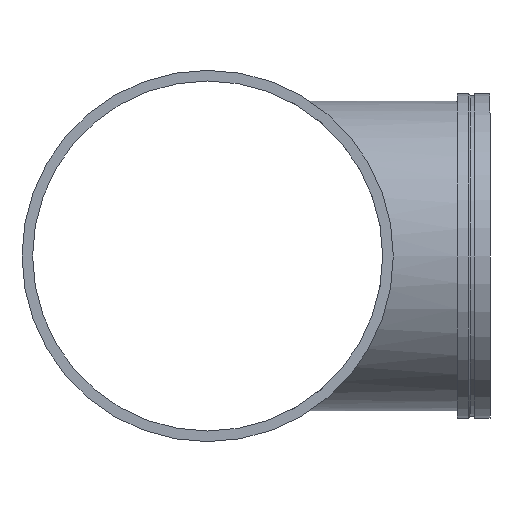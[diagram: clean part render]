
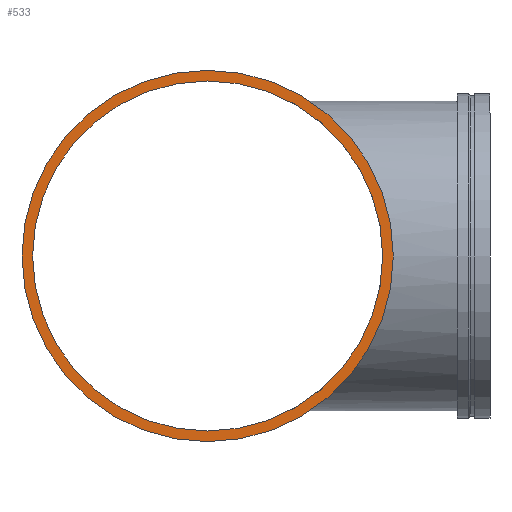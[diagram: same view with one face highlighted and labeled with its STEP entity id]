
A CAD part, left-side view. The second image highlights one B-rep face of the part: STEP entity #533.
In plain terms, the highlighted planar face has unit normal (-1, 0, 0).
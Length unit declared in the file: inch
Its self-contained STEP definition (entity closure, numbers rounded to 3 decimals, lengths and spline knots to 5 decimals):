
#58=FACE_BOUND('',#128,.T.);
#67=PLANE('',#626);
#92=FACE_OUTER_BOUND('',#127,.T.);
#127=EDGE_LOOP('',(#465,#466));
#128=EDGE_LOOP('',(#467,#468));
#151=CIRCLE('',#587,24.);
#152=CIRCLE('',#588,24.);
#175=CIRCLE('',#624,22.625);
#176=CIRCLE('',#625,22.625);
#239=VERTEX_POINT('',#1161);
#240=VERTEX_POINT('',#1163);
#263=VERTEX_POINT('',#1230);
#264=VERTEX_POINT('',#1232);
#299=EDGE_CURVE('',#239,#240,#151,.T.);
#300=EDGE_CURVE('',#240,#239,#152,.T.);
#331=EDGE_CURVE('',#264,#263,#175,.T.);
#332=EDGE_CURVE('',#263,#264,#176,.T.);
#465=ORIENTED_EDGE('',*,*,#300,.F.);
#466=ORIENTED_EDGE('',*,*,#299,.F.);
#467=ORIENTED_EDGE('',*,*,#331,.T.);
#468=ORIENTED_EDGE('',*,*,#332,.T.);
#533=ADVANCED_FACE('',(#92,#58),#67,.T.);
#587=AXIS2_PLACEMENT_3D('',#1164,#716,#717);
#588=AXIS2_PLACEMENT_3D('',#1165,#718,#719);
#624=AXIS2_PLACEMENT_3D('',#1233,#798,#799);
#625=AXIS2_PLACEMENT_3D('',#1234,#800,#801);
#626=AXIS2_PLACEMENT_3D('',#1235,#802,#803);
#716=DIRECTION('center_axis',(1.,0.,0.));
#717=DIRECTION('ref_axis',(0.,0.,1.));
#718=DIRECTION('center_axis',(1.,0.,0.));
#719=DIRECTION('ref_axis',(0.,0.,1.));
#798=DIRECTION('center_axis',(1.,0.,0.));
#799=DIRECTION('ref_axis',(0.,0.,1.));
#800=DIRECTION('center_axis',(1.,0.,0.));
#801=DIRECTION('ref_axis',(0.,0.,1.));
#802=DIRECTION('center_axis',(-1.,0.,0.));
#803=DIRECTION('ref_axis',(0.,0.,-1.));
#1161=CARTESIAN_POINT('',(-39.5,24.,0.));
#1163=CARTESIAN_POINT('',(-39.5,-24.,0.));
#1164=CARTESIAN_POINT('Origin',(-39.5,0.,0.));
#1165=CARTESIAN_POINT('Origin',(-39.5,0.,0.));
#1230=CARTESIAN_POINT('',(-39.5,22.625,0.));
#1232=CARTESIAN_POINT('',(-39.5,-22.625,0.));
#1233=CARTESIAN_POINT('Origin',(-39.5,0.,0.));
#1234=CARTESIAN_POINT('Origin',(-39.5,0.,0.));
#1235=CARTESIAN_POINT('Origin',(-39.5,-24.,0.));
